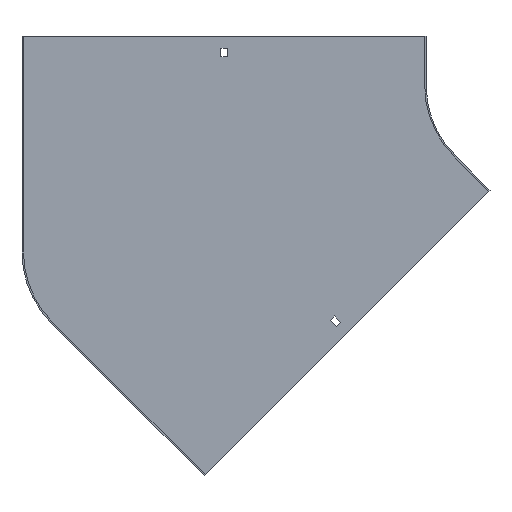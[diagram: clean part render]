
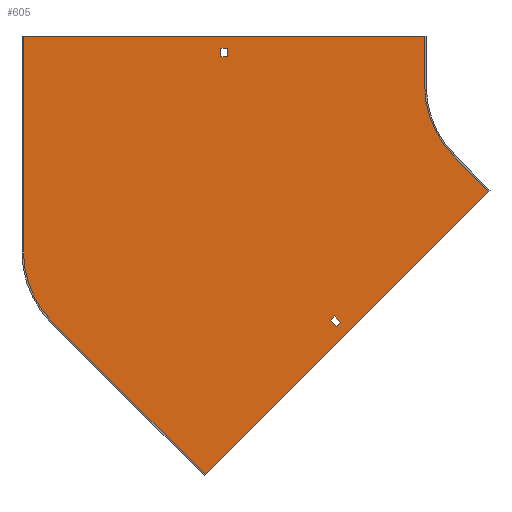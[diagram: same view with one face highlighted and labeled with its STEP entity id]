
A CAD part, front view. The second image highlights one B-rep face of the part: STEP entity #605.
In plain terms, the highlighted planar face has unit normal (0, -1, 0).
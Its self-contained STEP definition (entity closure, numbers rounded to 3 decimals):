
#3 = PLANE ( 'NONE',  #303 ) ;
#13 = VERTEX_POINT ( 'NONE', #575 ) ;
#25 = ORIENTED_EDGE ( 'NONE', *, *, #797, .F. ) ;
#29 = LINE ( 'NONE', #693, #108 ) ;
#46 = EDGE_CURVE ( 'NONE', #779, #13, #47, .T. ) ;
#47 = LINE ( 'NONE', #317, #847 ) ;
#65 = VECTOR ( 'NONE', #493, 1000. ) ;
#71 = DIRECTION ( 'NONE',  ( 0., 0., -1. ) ) ;
#76 = CARTESIAN_POINT ( 'NONE',  ( -211.248, -1.5, -211.248 ) ) ;
#79 = ORIENTED_EDGE ( 'NONE', *, *, #151, .F. ) ;
#87 = VERTEX_POINT ( 'NONE', #263 ) ;
#89 = LINE ( 'NONE', #298, #143 ) ;
#93 = VERTEX_POINT ( 'NONE', #539 ) ;
#96 = CARTESIAN_POINT ( 'NONE',  ( -100., -1.5, 50. ) ) ;
#100 = DIRECTION ( 'NONE',  ( -0.707, 0., -0.707 ) ) ;
#101 = EDGE_CURVE ( 'NONE', #748, #93, #398, .T. ) ;
#108 = VECTOR ( 'NONE', #100, 1000. ) ;
#113 = VERTEX_POINT ( 'NONE', #609 ) ;
#120 = ORIENTED_EDGE ( 'NONE', *, *, #773, .F. ) ;
#132 = FACE_BOUND ( 'NONE', #177, .T. ) ;
#139 = LINE ( 'NONE', #76, #318 ) ;
#140 = ORIENTED_EDGE ( 'NONE', *, *, #685, .F. ) ;
#143 = VECTOR ( 'NONE', #754, 1000. ) ;
#151 = EDGE_CURVE ( 'NONE', #752, #453, #730, .T. ) ;
#173 = ORIENTED_EDGE ( 'NONE', *, *, #176, .F. ) ;
#174 = DIRECTION ( 'NONE',  ( -0.707, 0., -0.707 ) ) ;
#176 = EDGE_CURVE ( 'NONE', #453, #529, #561, .T. ) ;
#177 = EDGE_LOOP ( 'NONE', ( #252, #345, #821, #488 ) ) ;
#189 = VECTOR ( 'NONE', #174, 1000. ) ;
#191 = EDGE_CURVE ( 'NONE', #13, #113, #349, .T. ) ;
#219 = DIRECTION ( 'NONE',  ( 0.707, 0., -0.707 ) ) ;
#224 = VERTEX_POINT ( 'NONE', #262 ) ;
#230 = CARTESIAN_POINT ( 'NONE',  ( -188.974, -1.5, -242.714 ) ) ;
#234 = CIRCLE ( 'NONE', #805, 100. ) ;
#252 = ORIENTED_EDGE ( 'NONE', *, *, #619, .F. ) ;
#255 = CARTESIAN_POINT ( 'NONE',  ( -298.75, -1.5, 29. ) ) ;
#262 = CARTESIAN_POINT ( 'NONE',  ( -100., -1.5, 50. ) ) ;
#263 = CARTESIAN_POINT ( 'NONE',  ( -195.338, -1.5, -236.35 ) ) ;
#281 = CARTESIAN_POINT ( 'NONE',  ( -474.711, -1.5, -238.053 ) ) ;
#285 = CARTESIAN_POINT ( 'NONE',  ( -190.742, -1.5, -231.754 ) ) ;
#286 = LINE ( 'NONE', #603, #65 ) ;
#292 = DIRECTION ( 'NONE',  ( 0., 0., -1. ) ) ;
#298 = CARTESIAN_POINT ( 'NONE',  ( -505.5, -1.5, 50. ) ) ;
#301 = VECTOR ( 'NONE', #794, 1000. ) ;
#303 = AXIS2_PLACEMENT_3D ( 'NONE', #538, #483, #71 ) ;
#306 = DIRECTION ( 'NONE',  ( 0.707, 0., 0.707 ) ) ;
#307 = CARTESIAN_POINT ( 'NONE',  ( -321.026, -1.5, -391.737 ) ) ;
#309 = ORIENTED_EDGE ( 'NONE', *, *, #101, .F. ) ;
#317 = CARTESIAN_POINT ( 'NONE',  ( 0., -1.5, 29. ) ) ;
#318 = VECTOR ( 'NONE', #427, 1000. ) ;
#345 = ORIENTED_EDGE ( 'NONE', *, *, #403, .F. ) ;
#349 = LINE ( 'NONE', #824, #362 ) ;
#352 = VERTEX_POINT ( 'NONE', #285 ) ;
#356 = LINE ( 'NONE', #728, #598 ) ;
#362 = VECTOR ( 'NONE', #814, 1000. ) ;
#363 = EDGE_LOOP ( 'NONE', ( #552, #309, #760, #25, #120, #173, #79, #140 ) ) ;
#374 = VECTOR ( 'NONE', #470, 1000. ) ;
#387 = VERTEX_POINT ( 'NONE', #230 ) ;
#398 = LINE ( 'NONE', #721, #301 ) ;
#403 = EDGE_CURVE ( 'NONE', #387, #837, #502, .T. ) ;
#407 = FACE_BOUND ( 'NONE', #501, .T. ) ;
#413 = CARTESIAN_POINT ( 'NONE',  ( 0., -1.5, 0. ) ) ;
#427 = DIRECTION ( 'NONE',  ( -0.707, 0., 0.707 ) ) ;
#433 = VECTOR ( 'NONE', #219, 1000. ) ;
#453 = VERTEX_POINT ( 'NONE', #511 ) ;
#470 = DIRECTION ( 'NONE',  ( -0.707, 0., 0.707 ) ) ;
#480 = CARTESIAN_POINT ( 'NONE',  ( -298.75, -1.5, 38. ) ) ;
#483 = DIRECTION ( 'NONE',  ( 0., -1., 0. ) ) ;
#488 = ORIENTED_EDGE ( 'NONE', *, *, #694, .F. ) ;
#493 = DIRECTION ( 'NONE',  ( 0., 0., -1. ) ) ;
#498 = DIRECTION ( 'NONE',  ( 0., 1., 0. ) ) ;
#501 = EDGE_LOOP ( 'NONE', ( #722, #798, #830, #607 ) ) ;
#502 = LINE ( 'NONE', #771, #508 ) ;
#504 = EDGE_CURVE ( 'NONE', #87, #387, #827, .T. ) ;
#508 = VECTOR ( 'NONE', #306, 1000. ) ;
#511 = CARTESIAN_POINT ( 'NONE',  ( -70.711, -1.5, -70.711 ) ) ;
#512 = CARTESIAN_POINT ( 'NONE',  ( -100., -1.5, 0. ) ) ;
#524 = DIRECTION ( 'NONE',  ( -1., 0., 0. ) ) ;
#529 = VERTEX_POINT ( 'NONE', #743 ) ;
#531 = AXIS2_PLACEMENT_3D ( 'NONE', #413, #599, #676 ) ;
#532 = VECTOR ( 'NONE', #292, 1000. ) ;
#538 = CARTESIAN_POINT ( 'NONE',  ( 0., -1.5, 0. ) ) ;
#539 = CARTESIAN_POINT ( 'NONE',  ( -504., -1.5, 50. ) ) ;
#540 = VERTEX_POINT ( 'NONE', #281 ) ;
#543 = EDGE_CURVE ( 'NONE', #113, #612, #356, .T. ) ;
#552 = ORIENTED_EDGE ( 'NONE', *, *, #652, .F. ) ;
#554 = DIRECTION ( 'NONE',  ( 1., 0., 0. ) ) ;
#561 = LINE ( 'NONE', #690, #433 ) ;
#564 = LINE ( 'NONE', #96, #532 ) ;
#568 = DIRECTION ( 'NONE',  ( 0., 0., -1. ) ) ;
#571 = EDGE_CURVE ( 'NONE', #612, #779, #286, .T. ) ;
#575 = CARTESIAN_POINT ( 'NONE',  ( -305.25, -1.5, 29. ) ) ;
#598 = VECTOR ( 'NONE', #554, 1000. ) ;
#599 = DIRECTION ( 'NONE',  ( 0., -1., 0. ) ) ;
#603 = CARTESIAN_POINT ( 'NONE',  ( -298.75, -1.5, 0. ) ) ;
#605 = ADVANCED_FACE ( 'NONE', ( #132, #674, #407 ), #3, .T. ) ;
#607 = ORIENTED_EDGE ( 'NONE', *, *, #191, .T. ) ;
#609 = CARTESIAN_POINT ( 'NONE',  ( -305.25, -1.5, 38. ) ) ;
#612 = VERTEX_POINT ( 'NONE', #480 ) ;
#619 = EDGE_CURVE ( 'NONE', #837, #352, #139, .T. ) ;
#631 = DIRECTION ( 'NONE',  ( 0.707, 0., -0.707 ) ) ;
#647 = EDGE_CURVE ( 'NONE', #540, #748, #234, .T. ) ;
#652 = EDGE_CURVE ( 'NONE', #93, #224, #89, .T. ) ;
#653 = CARTESIAN_POINT ( 'NONE',  ( -321.026, -1.5, -391.737 ) ) ;
#674 = FACE_OUTER_BOUND ( 'NONE', #363, .T. ) ;
#676 = DIRECTION ( 'NONE',  ( 0., 0., -1. ) ) ;
#685 = EDGE_CURVE ( 'NONE', #224, #752, #564, .T. ) ;
#690 = CARTESIAN_POINT ( 'NONE',  ( -70.711, -1.5, -70.711 ) ) ;
#693 = CARTESIAN_POINT ( 'NONE',  ( 20.506, -1.5, -20.506 ) ) ;
#694 = EDGE_CURVE ( 'NONE', #352, #87, #29, .T. ) ;
#703 = VERTEX_POINT ( 'NONE', #307 ) ;
#719 = CARTESIAN_POINT ( 'NONE',  ( -34.295, -1.5, -105.005 ) ) ;
#721 = CARTESIAN_POINT ( 'NONE',  ( -504., -1.5, -167.342 ) ) ;
#722 = ORIENTED_EDGE ( 'NONE', *, *, #543, .T. ) ;
#728 = CARTESIAN_POINT ( 'NONE',  ( 0., -1.5, 38. ) ) ;
#730 = CIRCLE ( 'NONE', #531, 100. ) ;
#743 = CARTESIAN_POINT ( 'NONE',  ( -35.355, -1.5, -106.066 ) ) ;
#748 = VERTEX_POINT ( 'NONE', #823 ) ;
#752 = VERTEX_POINT ( 'NONE', #512 ) ;
#754 = DIRECTION ( 'NONE',  ( 1., 0., 0. ) ) ;
#757 = CARTESIAN_POINT ( 'NONE',  ( -215.844, -1.5, -215.844 ) ) ;
#760 = ORIENTED_EDGE ( 'NONE', *, *, #647, .F. ) ;
#771 = CARTESIAN_POINT ( 'NONE',  ( 26.87, -1.5, -26.87 ) ) ;
#773 = EDGE_CURVE ( 'NONE', #529, #703, #853, .T. ) ;
#779 = VERTEX_POINT ( 'NONE', #255 ) ;
#789 = LINE ( 'NONE', #653, #374 ) ;
#794 = DIRECTION ( 'NONE',  ( 0., 0., 1. ) ) ;
#797 = EDGE_CURVE ( 'NONE', #703, #540, #789, .T. ) ;
#798 = ORIENTED_EDGE ( 'NONE', *, *, #571, .T. ) ;
#805 = AXIS2_PLACEMENT_3D ( 'NONE', #828, #498, #568 ) ;
#814 = DIRECTION ( 'NONE',  ( 0., 0., 1. ) ) ;
#821 = ORIENTED_EDGE ( 'NONE', *, *, #504, .F. ) ;
#823 = CARTESIAN_POINT ( 'NONE',  ( -504., -1.5, -167.342 ) ) ;
#824 = CARTESIAN_POINT ( 'NONE',  ( -305.25, -1.5, 0. ) ) ;
#827 = LINE ( 'NONE', #757, #860 ) ;
#828 = CARTESIAN_POINT ( 'NONE',  ( -404., -1.5, -167.342 ) ) ;
#830 = ORIENTED_EDGE ( 'NONE', *, *, #46, .T. ) ;
#837 = VERTEX_POINT ( 'NONE', #848 ) ;
#847 = VECTOR ( 'NONE', #524, 1000. ) ;
#848 = CARTESIAN_POINT ( 'NONE',  ( -184.378, -1.5, -238.118 ) ) ;
#853 = LINE ( 'NONE', #719, #189 ) ;
#860 = VECTOR ( 'NONE', #631, 1000. ) ;
